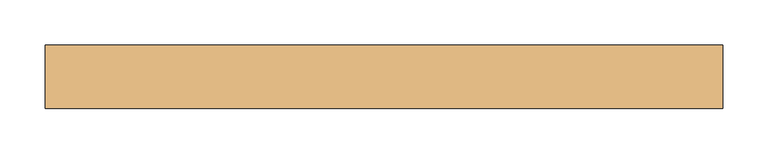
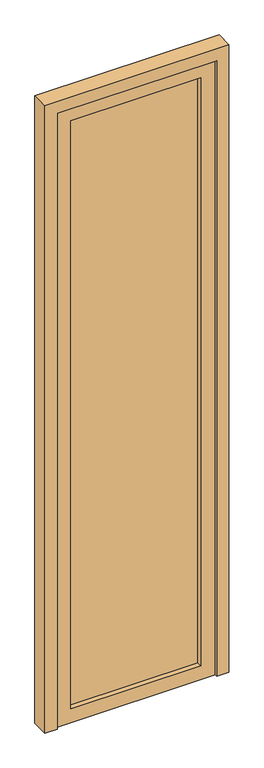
"""IFC4 building model written with IfcOpenShell, lengths in millimetres: door geometry, Simple Vitrée 1 : Simple Vitrée."""

from ifc_helpers import new_model, si_unit, frame, origin, place, context, project, spatial, polyline, outline, extrude, source, transform, mapped, element, save


def door_7aa4ad03(model_context):
    return source(origin(), model_context, "Body", "SweptSolid", [
        extrude(outline(polyline([(0.0, -374.1244143), (0.0, -324.1244143), (2645.0, -324.1244143), (2645.0, 324.1244143), (0.0, 324.1244143), (0.0, 374.1244143), (2695.0, 374.1244143), (2695.0, -374.1244143), (0.0, -374.1244143)])), frame((0.0, -25.0, 0.0), z_axis=(0.0, 1.0, 0.0), x_axis=(0.0, 0.0, 1.0)), (0.0, 0.0, 1.0), 70.0),
        extrude(outline(polyline([(264.1244143, 5.0), (-264.1244143, 5.0), (-264.1244143, 15.0), (264.1244143, 15.0), (264.1244143, 5.0)])), frame((0.0, 0.0, 60.0), z_axis=(0.0, 0.0, 1.0), x_axis=(1.0, 0.0, 0.0)), (0.0, 0.0, 1.0), 2525.0),
        extrude(outline(polyline([(2645.0, 324.1244143), (2645.0, -324.1244143), (0.0, -324.1244143), (0.0, 324.1244143), (2645.0, 324.1244143)]), holes=[polyline([(2585.0, 264.1244143), (60.0, 264.1244143), (60.0, -264.1244143), (2585.0, -264.1244143), (2585.0, 264.1244143)])]), frame((0.0, -15.0, 0.0), z_axis=(0.0, 1.0, 0.0), x_axis=(0.0, 0.0, 1.0)), (0.0, 0.0, 1.0), 50.0),
    ])


if __name__ == "__main__":
    model = new_model("IFC4")
    model_context = context("Model", 3, world=origin())
    ifc_project = project(units=[si_unit("LENGTHUNIT", "METRE", prefix="MILLI")], contexts=[model_context])
    site = spatial("IfcSite", under=ifc_project)
    building = spatial("IfcBuilding", under=site)
    placement = place(None, origin())
    door_shape = door_7aa4ad03(model_context)
    element("IfcDoor", 1, ObjectType="Simple Vitrée 1 : Simple Vitrée", at=placement, inside=building, context=model_context, shape_type="MappedRepresentation", body=[
        mapped(door_shape, transform((0.0, 0.0, 0.0), x_axis=(1.0, 0.0, 0.0), y_axis=(0.0, 1.0, 0.0), z_axis=(0.0, 0.0, 1.0))),
    ])
    save(model, "model.ifc")
